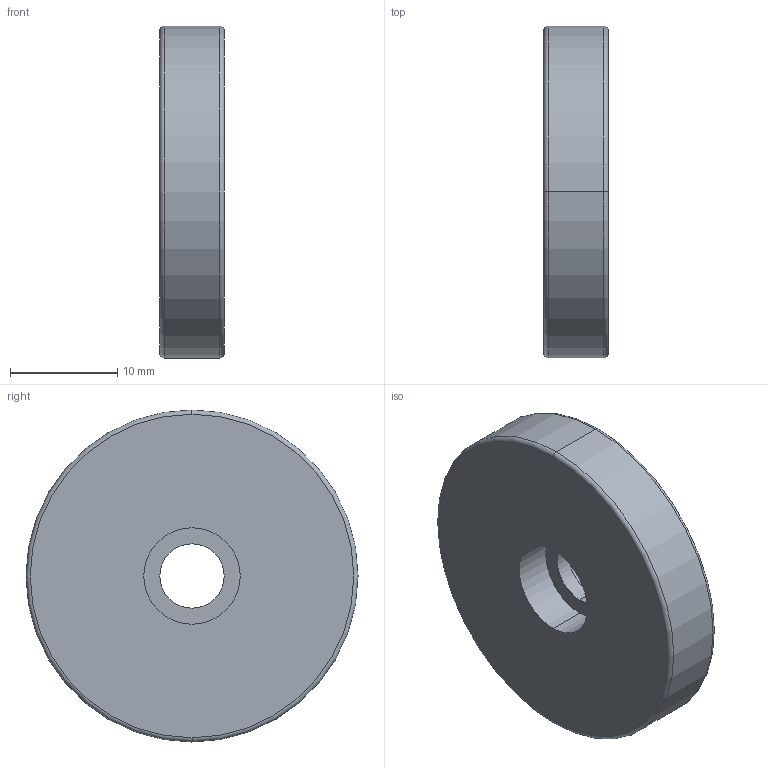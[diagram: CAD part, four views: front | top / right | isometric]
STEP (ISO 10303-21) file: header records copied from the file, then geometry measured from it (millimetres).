
FILE_DESCRIPTION (( 'STEP AP214' ), '1' );
FILE_NAME ('51.4-ND-31-WS.step', '2020-11-27T13:43:33', ( '' ), ( '' ), 'SwSTEP 2.0', 'SolidWorks 2019', '' );
FILE_SCHEMA (( 'AUTOMOTIVE_DESIGN' ));
Length unit declared in the file: millimetre
Products named in the file (1): 51.4-ND-31-WS
Bounding box: 6 x 31 x 31 mm (x, y, z)
Volume: 4206.6 mm3; surface area: 2156.1 mm2
Topology: 1 solids, 1 shells, 16 faces, 32 edges, 20 vertices
Faces by surface type: cylinder 8, torus 4, plane 4
Entity records: 631 total; most frequent: DIRECTION 90, CARTESIAN_POINT 69, ORIENTED_EDGE 64, AXIS2_PLACEMENT_3D 41, EDGE_CURVE 32, CIRCLE 24, EDGE_LOOP 20, VERTEX_POINT 20
